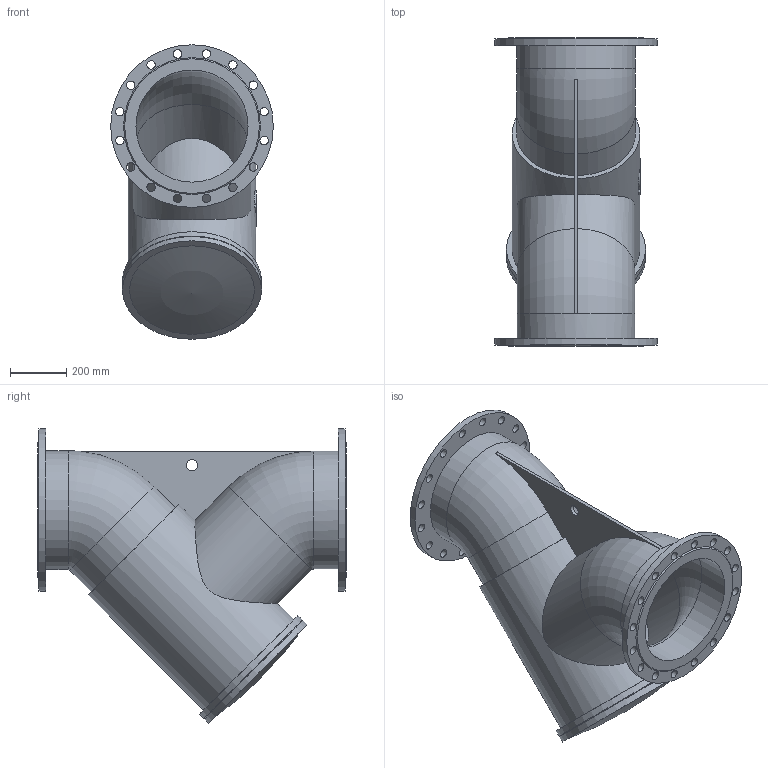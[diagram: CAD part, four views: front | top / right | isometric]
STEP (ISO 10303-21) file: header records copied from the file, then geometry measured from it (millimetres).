
FILE_DESCRIPTION(('STEP AP203'), '1');
FILE_NAME('Ôèëüòð ñåò÷àòûé ôëàíöåâûé 021Y.Z DN400 PN16', '', ('UNSPECIFIED'), ('UNSPECIFIED'), 'ASCON STEP Converter 1.6', 'ASCON Math Kernel', '');
FILE_SCHEMA(('CONFIG_CONTROL_DESIGN'));
Length unit declared in the file: millimetre
Bounding box: 580 x 1100 x 1050 mm (x, y, z)
Volume: 124523073 mm3; surface area: 4336286.7 mm2
Topology: 1 solids, 1 shells, 89 faces, 216 edges, 141 vertices
Faces by surface type: cylinder 55, plane 27, torus 4, cone 2, sphere 1
Full cylindrical faces by diameter (mm): 30 x32, 40 x1, 400 x4, 420 x1, 424 x1, 456 x1, 484 x1, 496 x2, 580 x2
Entity records: 4389 total; most frequent: CARTESIAN_POINT 1539, DIRECTION 445, ORIENTED_EDGE 328, EDGE_LOOP 218, AXIS2_PLACEMENT_3D 204, EDGE_CURVE 164, VERTEX_POINT 140, FACE_BOUND 120
